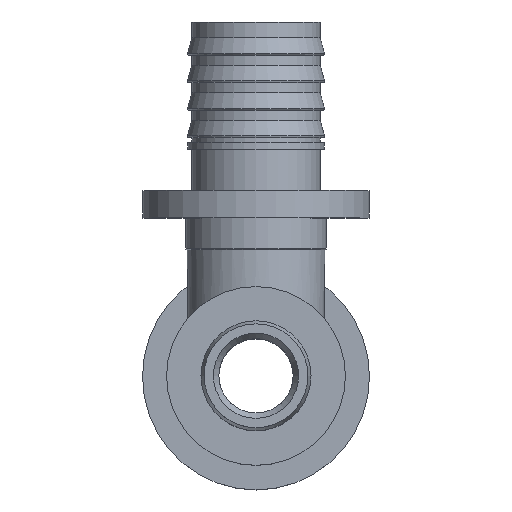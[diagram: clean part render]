
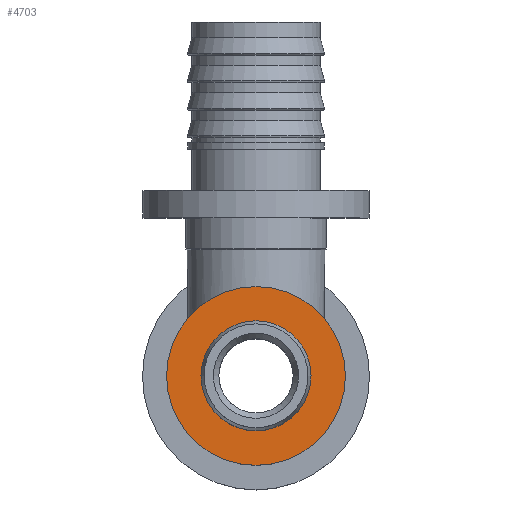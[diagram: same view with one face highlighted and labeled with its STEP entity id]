
A CAD part, top view. The second image highlights one B-rep face of the part: STEP entity #4703.
In plain terms, the highlighted planar face has unit normal (0, 0, 1).
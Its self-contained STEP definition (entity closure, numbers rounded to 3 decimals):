
#70=FACE_BOUND('',#1163,.T.);
#215=CIRCLE('',#5011,13.);
#216=CIRCLE('',#5012,13.);
#217=CIRCLE('',#5014,7.25);
#218=CIRCLE('',#5015,7.25);
#885=FACE_OUTER_BOUND('',#1162,.T.);
#1162=EDGE_LOOP('',(#4101,#4102));
#1163=EDGE_LOOP('',(#4103,#4104));
#2168=VERTEX_POINT('',#10359);
#2169=VERTEX_POINT('',#10360);
#2170=VERTEX_POINT('',#10365);
#2171=VERTEX_POINT('',#10366);
#2845=EDGE_CURVE('',#2168,#2169,#215,.T.);
#2846=EDGE_CURVE('',#2169,#2168,#216,.T.);
#2848=EDGE_CURVE('',#2170,#2171,#217,.T.);
#2849=EDGE_CURVE('',#2171,#2170,#218,.T.);
#4101=ORIENTED_EDGE('',*,*,#2845,.T.);
#4102=ORIENTED_EDGE('',*,*,#2846,.T.);
#4103=ORIENTED_EDGE('',*,*,#2848,.F.);
#4104=ORIENTED_EDGE('',*,*,#2849,.F.);
#4481=PLANE('',#5013);
#4703=ADVANCED_FACE('',(#885,#70),#4481,.T.);
#5011=AXIS2_PLACEMENT_3D('',#10361,#5863,#5864);
#5012=AXIS2_PLACEMENT_3D('',#10362,#5865,#5866);
#5013=AXIS2_PLACEMENT_3D('',#10364,#5868,#5869);
#5014=AXIS2_PLACEMENT_3D('',#10367,#5870,#5871);
#5015=AXIS2_PLACEMENT_3D('',#10368,#5872,#5873);
#5863=DIRECTION('center_axis',(0.,0.,1.));
#5864=DIRECTION('ref_axis',(1.,0.,0.));
#5865=DIRECTION('center_axis',(0.,0.,1.));
#5866=DIRECTION('ref_axis',(1.,0.,0.));
#5868=DIRECTION('center_axis',(0.,0.,1.));
#5869=DIRECTION('ref_axis',(1.,0.,0.));
#5870=DIRECTION('center_axis',(0.,0.,1.));
#5871=DIRECTION('ref_axis',(1.,0.,0.));
#5872=DIRECTION('center_axis',(0.,0.,1.));
#5873=DIRECTION('ref_axis',(1.,0.,0.));
#10359=CARTESIAN_POINT('',(0.,-13.,74.));
#10360=CARTESIAN_POINT('',(0.,13.,74.));
#10361=CARTESIAN_POINT('Origin',(0.,0.,74.));
#10362=CARTESIAN_POINT('Origin',(0.,0.,74.));
#10364=CARTESIAN_POINT('Origin',(0.,-7.25,74.));
#10365=CARTESIAN_POINT('',(0.,-7.25,74.));
#10366=CARTESIAN_POINT('',(0.,7.25,74.));
#10367=CARTESIAN_POINT('Origin',(0.,0.,74.));
#10368=CARTESIAN_POINT('Origin',(0.,0.,74.));
